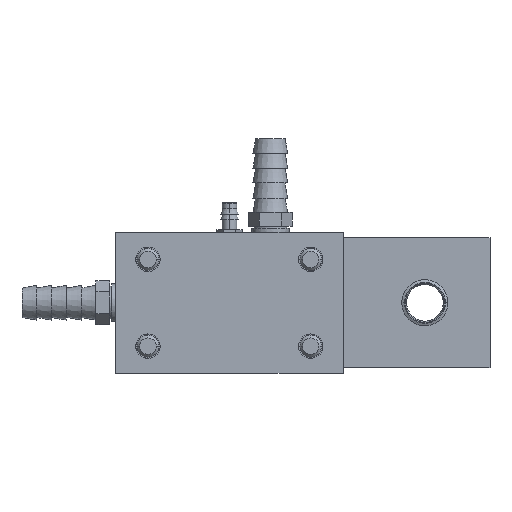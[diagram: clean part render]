
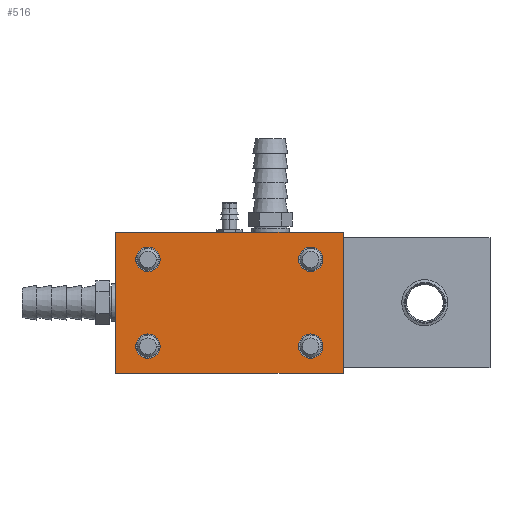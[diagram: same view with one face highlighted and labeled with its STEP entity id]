
A CAD part, left-side view. The second image highlights one B-rep face of the part: STEP entity #516.
In plain terms, the highlighted planar face has unit normal (-1, 0, 0).
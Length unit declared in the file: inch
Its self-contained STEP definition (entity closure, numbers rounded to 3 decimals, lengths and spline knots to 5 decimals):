
#251=CARTESIAN_POINT('',(-3.8125,-0.935,-0.5));
#252=DIRECTION('',(1.,0.,0.));
#253=DIRECTION('',(0.,-1.,0.));
#254=AXIS2_PLACEMENT_3D('',#251,#252,#253);
#256=CARTESIAN_POINT('',(-3.8125,-0.935,-0.5));
#257=DIRECTION('',(1.,0.,0.));
#258=DIRECTION('',(0.,1.,0.));
#259=AXIS2_PLACEMENT_3D('',#256,#257,#258);
#261=CARTESIAN_POINT('',(-3.8125,-0.935,0.5));
#262=DIRECTION('',(1.,0.,0.));
#263=DIRECTION('',(0.,-1.,0.));
#264=AXIS2_PLACEMENT_3D('',#261,#262,#263);
#266=CARTESIAN_POINT('',(-3.8125,-0.935,0.5));
#267=DIRECTION('',(1.,0.,0.));
#268=DIRECTION('',(0.,1.,0.));
#269=AXIS2_PLACEMENT_3D('',#266,#267,#268);
#271=CARTESIAN_POINT('',(-3.8125,0.94,-0.5));
#272=DIRECTION('',(1.,0.,0.));
#273=DIRECTION('',(0.,-1.,0.));
#274=AXIS2_PLACEMENT_3D('',#271,#272,#273);
#276=CARTESIAN_POINT('',(-3.8125,0.94,-0.5));
#277=DIRECTION('',(1.,0.,0.));
#278=DIRECTION('',(0.,1.,0.));
#279=AXIS2_PLACEMENT_3D('',#276,#277,#278);
#281=CARTESIAN_POINT('',(-3.8125,0.94,0.5));
#282=DIRECTION('',(1.,0.,0.));
#283=DIRECTION('',(0.,-1.,0.));
#284=AXIS2_PLACEMENT_3D('',#281,#282,#283);
#286=CARTESIAN_POINT('',(-3.8125,0.94,0.5));
#287=DIRECTION('',(1.,0.,0.));
#288=DIRECTION('',(0.,1.,0.));
#289=AXIS2_PLACEMENT_3D('',#286,#287,#288);
#319=DIRECTION('',(0.,-1.,0.));
#320=VECTOR('',#319,2.625);
#321=CARTESIAN_POINT('',(-3.8125,1.315,0.8125));
#322=LINE('',#321,#320);
#327=DIRECTION('',(0.,0.,-1.));
#328=VECTOR('',#327,1.625);
#329=CARTESIAN_POINT('',(-3.8125,-1.31,0.8125));
#330=LINE('',#329,#328);
#339=DIRECTION('',(0.,1.,0.));
#340=VECTOR('',#339,2.625);
#341=CARTESIAN_POINT('',(-3.8125,-1.31,-0.8125));
#342=LINE('',#341,#340);
#355=DIRECTION('',(0.,0.,1.));
#356=VECTOR('',#355,1.625);
#357=CARTESIAN_POINT('',(-3.8125,1.315,-0.8125));
#358=LINE('',#357,#356);
#369=CARTESIAN_POINT('',(-3.8125,1.315,-0.8125));
#370=VERTEX_POINT('',#369);
#371=CARTESIAN_POINT('',(-3.8125,1.315,0.8125));
#372=VERTEX_POINT('',#371);
#375=CARTESIAN_POINT('',(-3.8125,-1.31,-0.8125));
#376=VERTEX_POINT('',#375);
#377=CARTESIAN_POINT('',(-3.8125,-1.31,0.8125));
#378=VERTEX_POINT('',#377);
#379=CARTESIAN_POINT('',(-3.8125,-1.07563,-0.5));
#381=VERTEX_POINT('',#379);
#383=CARTESIAN_POINT('',(-3.8125,-0.79438,-0.5));
#385=VERTEX_POINT('',#383);
#387=CARTESIAN_POINT('',(-3.8125,-1.07563,0.5));
#389=VERTEX_POINT('',#387);
#391=CARTESIAN_POINT('',(-3.8125,-0.79438,0.5));
#393=VERTEX_POINT('',#391);
#395=CARTESIAN_POINT('',(-3.8125,0.79938,-0.5));
#397=VERTEX_POINT('',#395);
#399=CARTESIAN_POINT('',(-3.8125,1.08063,-0.5));
#401=VERTEX_POINT('',#399);
#403=CARTESIAN_POINT('',(-3.8125,0.79938,0.5));
#405=VERTEX_POINT('',#403);
#407=CARTESIAN_POINT('',(-3.8125,1.08063,0.5));
#409=VERTEX_POINT('',#407);
#479=CARTESIAN_POINT('',(-3.8125,0.0025,0.));
#480=DIRECTION('',(-1.,0.,0.));
#481=DIRECTION('',(0.,1.,0.));
#482=AXIS2_PLACEMENT_3D('',#479,#480,#481);
#483=PLANE('',#482);
#485=ORIENTED_EDGE('',*,*,#484,.T.);
#487=ORIENTED_EDGE('',*,*,#486,.T.);
#489=ORIENTED_EDGE('',*,*,#488,.T.);
#491=ORIENTED_EDGE('',*,*,#490,.T.);
#492=EDGE_LOOP('',(#485,#487,#489,#491));
#493=FACE_OUTER_BOUND('',#492,.F.);
#495=ORIENTED_EDGE('',*,*,#494,.F.);
#497=ORIENTED_EDGE('',*,*,#496,.F.);
#498=EDGE_LOOP('',(#495,#497));
#499=FACE_BOUND('',#498,.F.);
#501=ORIENTED_EDGE('',*,*,#500,.F.);
#503=ORIENTED_EDGE('',*,*,#502,.F.);
#504=EDGE_LOOP('',(#501,#503));
#505=FACE_BOUND('',#504,.F.);
#507=ORIENTED_EDGE('',*,*,#506,.F.);
#509=ORIENTED_EDGE('',*,*,#508,.F.);
#510=EDGE_LOOP('',(#507,#509));
#511=FACE_BOUND('',#510,.F.);
#512=ORIENTED_EDGE('',*,*,#420,.F.);
#513=ORIENTED_EDGE('',*,*,#473,.F.);
#514=EDGE_LOOP('',(#512,#513));
#515=FACE_BOUND('',#514,.F.);
#255=CIRCLE('',#254,0.14063);
#260=CIRCLE('',#259,0.14063);
#265=CIRCLE('',#264,0.14063);
#270=CIRCLE('',#269,0.14063);
#275=CIRCLE('',#274,0.14063);
#280=CIRCLE('',#279,0.14063);
#285=CIRCLE('',#284,0.14063);
#290=CIRCLE('',#289,0.14063);
#420=EDGE_CURVE('',#381,#385,#255,.T.);
#473=EDGE_CURVE('',#385,#381,#260,.T.);
#484=EDGE_CURVE('',#372,#378,#322,.T.);
#486=EDGE_CURVE('',#378,#376,#330,.T.);
#488=EDGE_CURVE('',#376,#370,#342,.T.);
#490=EDGE_CURVE('',#370,#372,#358,.T.);
#494=EDGE_CURVE('',#389,#393,#265,.T.);
#496=EDGE_CURVE('',#393,#389,#270,.T.);
#500=EDGE_CURVE('',#397,#401,#275,.T.);
#502=EDGE_CURVE('',#401,#397,#280,.T.);
#506=EDGE_CURVE('',#405,#409,#285,.T.);
#508=EDGE_CURVE('',#409,#405,#290,.T.);
#516=ADVANCED_FACE('',(#493,#499,#505,#511,#515),#483,.T.);
